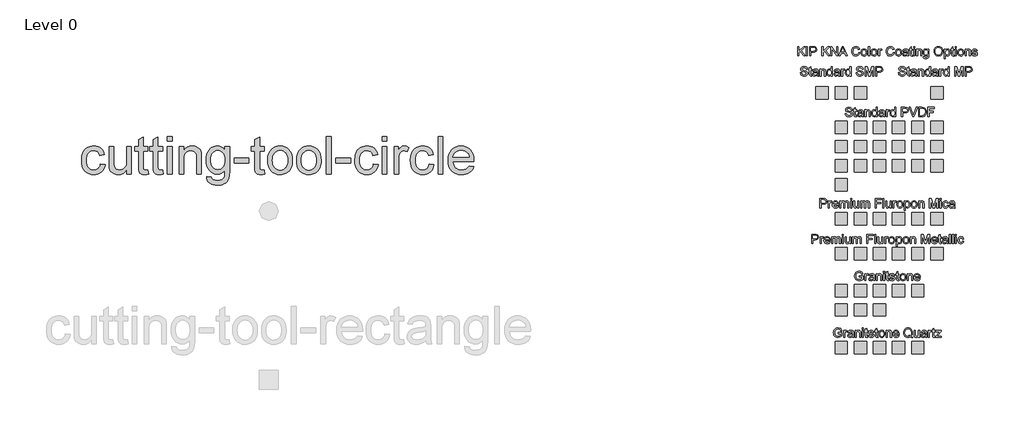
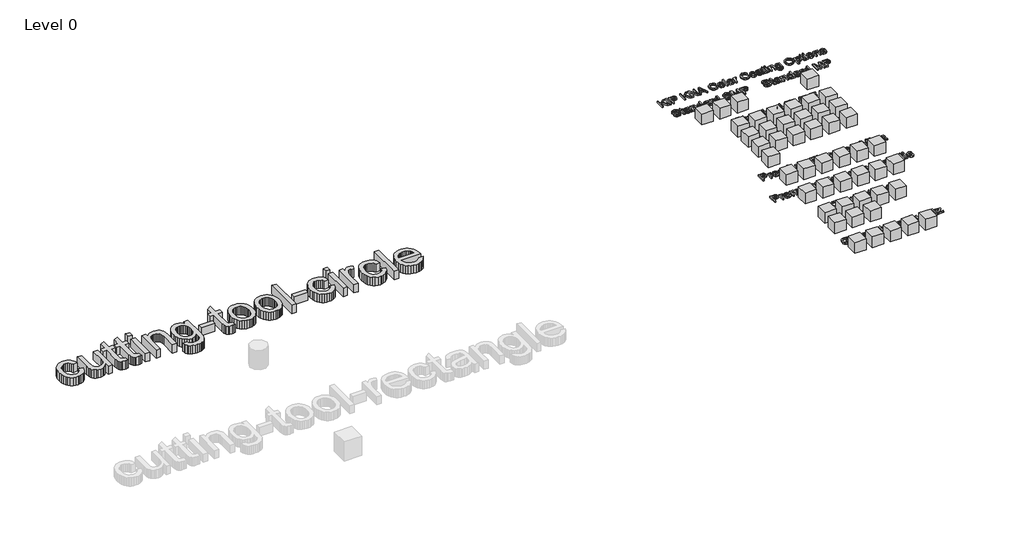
# One storey, part 3 of 3: 50 proxies.
"""IFC4 building model written with IfcOpenShell, lengths in millimetres."""

from ifc_helpers import new_model, si_unit, origin, origin_with_axes, place, context, project, spatial, polyline, outline, extrude, transform, mapped, element, save
from components import ks_color_sample_ks_color_sample_0243efec, r19_kna_color_range_kingspan_quadcore_4278cd54, r19_kna_color_range_kingspan_quadcore_c5814d20, r19_kna_color_range_kingspan_quadcore_91b79b7c

model = new_model("IFC4")

# Units and contexts
model_context = context("Model", 3, world=origin())
ifc_project = project(units=[si_unit("LENGTHUNIT", "METRE", prefix="MILLI")], contexts=[model_context])

# Site, building, storey
site = spatial("IfcSite", under=ifc_project)
building = spatial("IfcBuilding", under=site)
storey = spatial("IfcBuildingStorey", under=building, Name="Level 0", Elevation=0.0)

# Proxies
placement = place(None, origin())
element("IfcBuildingElementProxy", 1, Name="24\" Arial", ObjectType="24\" Arial", at=placement, inside=storey, context=model_context, shape_type="SweptSolid", body=[
    extrude(outline(polyline([(470.3318986, 12483.8018374), (546.4736722, 12474.2841157), (538.1921389, 12438.3556458), (525.2446914, 12406.5632951), (507.6313294, 12378.9070638), (485.3520532, 12355.3869517), (459.3456222, 12336.6164059), (430.5507963, 12323.2088731), (398.9675753, 12315.1643535), (364.5959592, 12312.4828469), (321.8916894, 12316.2239436), (283.6023784, 12327.4472336), (249.7280261, 12346.1527169), (220.2686327, 12372.3403935), (196.4232079, 12405.517647), (179.3907616, 12445.1918609), (169.1712938, 12491.3630352), (165.7648046, 12544.0311699), (171.5832555, 12611.7891691), (178.8563192, 12642.2802687), (189.0386084, 12670.5127683), (202.1998329, 12695.9196943), (218.4097027, 12717.9340731), (237.6682176, 12736.5559045), (259.9753779, 12751.7851887), (284.3227138, 12763.6265729), (309.7017558, 12772.0847045), (336.112504, 12777.1595834), (363.5549584, 12778.8512097), (397.3363642, 12776.5275472), (427.8925263, 12769.5565596), (455.2234449, 12757.938247), (479.3291199, 12741.6726094), (499.8005867, 12721.1314327), (516.2288808, 12696.686503), (528.614002, 12668.3378202), (536.9559505, 12636.0853844), (460.8141769, 12626.5676627), (447.0023269, 12659.7867421), (425.4945066, 12683.5996356), (397.4804312, 12697.9319861), (364.149816, 12702.7094362), (338.2781575, 12700.3578897), (314.9439385, 12693.3032503), (294.1471589, 12681.545518), (275.8878188, 12665.0846927), (261.021026, 12643.5396938), (250.4018883, 12616.5294406), (244.0304056, 12584.0539332), (241.9065781, 12546.1131715), (243.9839324, 12507.6007889), (250.2159953, 12474.7488482), (260.6027667, 12447.5573493), (275.1442468, 12426.0262924), (293.0410955, 12409.6630609), (313.4939731, 12397.9750384), (336.5028793, 12390.962225), (362.0678144, 12388.6246205), (401.4957201, 12394.4616607), (418.5467557, 12401.757961), (433.8225131, 12411.9727815), (446.8954384, 12425.2176579), (457.3379778, 12441.604126), (465.1501312, 12461.1321858), (470.3318986, 12483.8018374)])), origin_with_axes(), (0.0, 0.0, 1.0), 152.4),
    extrude(outline(polyline([(898.6293747, 12322.0005686), (898.6293747, 12398.8859142), (871.0800318, 12361.0845723), (838.9948997, 12334.0836137), (802.3739784, 12317.8830386), (761.2172678, 12312.4828469), (724.1316139, 12316.2750642), (689.6112835, 12327.6517159), (660.6491538, 12344.753872), (640.2381022, 12365.7226026), (626.5006094, 12391.1899439), (617.559156, 12421.787932), (613.097724, 12492.575987), (613.097724, 12769.333488), (689.2394975, 12769.333488), (689.2394975, 12528.4161578), (690.3920341, 12480.2326917), (693.8496439, 12450.7872402), (704.9474561, 12424.8923451), (723.9643102, 12405.2062762), (749.6361338, 12392.7700344), (780.6988544, 12388.6246205), (813.5461478, 12392.8629809), (844.274261, 12405.5780622), (869.6114771, 12425.5987385), (886.2860794, 12451.7538839), (895.5435508, 12487.5754653), (898.6293747, 12536.5954499), (898.6293747, 12769.333488), (974.7711482, 12769.333488), (974.7711482, 12322.0005686), (898.6293747, 12322.0005686)])), origin_with_axes(), (0.0, 0.0, 1.0), 152.4),
    extrude(outline(polyline([(1241.2673555, 12385.501618), (1250.7850772, 12319.7698526), (1220.6332323, 12314.3045984), (1193.8274614, 12312.4828469), (1157.2808973, 12315.643028), (1130.0289832, 12325.1235711), (1110.7704683, 12339.734761), (1098.2041013, 12358.2868826), (1091.2888817, 12390.1489431), (1088.9838085, 12444.6899498), (1088.9838085, 12693.1917145), (1031.8774783, 12693.1917145), (1031.8774783, 12769.333488), (1088.9838085, 12769.333488), (1088.9838085, 12878.0437155), (1165.125582, 12922.8067503), (1165.125582, 12769.333488), (1241.2673555, 12769.333488), (1241.2673555, 12693.1917145), (1165.125582, 12693.1917145), (1165.125582, 12446.9206658), (1169.1408708, 12407.6600638), (1182.1533809, 12393.7552673), (1193.1396573, 12389.9072822), (1208.104044, 12388.6246205), (1241.2673555, 12385.501618)])), origin_with_axes(), (0.0, 0.0, 1.0), 152.4),
    extrude(outline(polyline([(1479.2103977, 12385.501618), (1488.7281194, 12319.7698526), (1458.5762745, 12314.3045984), (1431.7705037, 12312.4828469), (1395.2239395, 12315.643028), (1367.9720255, 12325.1235711), (1348.7135105, 12339.734761), (1336.1471436, 12358.2868826), (1329.2319239, 12390.1489431), (1326.9268507, 12444.6899498), (1326.9268507, 12693.1917145), (1269.8205206, 12693.1917145), (1269.8205206, 12769.333488), (1326.9268507, 12769.333488), (1326.9268507, 12878.0437155), (1403.0686242, 12922.8067503), (1403.0686242, 12769.333488), (1479.2103977, 12769.333488), (1479.2103977, 12693.1917145), (1403.0686242, 12693.1917145), (1403.0686242, 12446.9206658), (1407.0839131, 12407.6600638), (1420.0964232, 12393.7552673), (1431.0826996, 12389.9072822), (1446.0470862, 12388.6246205), (1479.2103977, 12385.501618)])), origin_with_axes(), (0.0, 0.0, 1.0), 152.4),
    extrude(outline(polyline([(1555.3521713, 12854.9929833), (1555.3521713, 12931.1347568), (1631.4939448, 12931.1347568), (1631.4939448, 12854.9929833), (1555.3521713, 12854.9929833)])), origin_with_axes(), (0.0, 0.0, 1.0), 152.4),
    extrude(outline(polyline([(1555.3521713, 12322.0005686), (1555.3521713, 12769.333488), (1631.4939448, 12769.333488), (1631.4939448, 12322.0005686), (1555.3521713, 12322.0005686)])), origin_with_axes(), (0.0, 0.0, 1.0), 152.4),
    extrude(outline(polyline([(1745.706605, 12322.0005686), (1745.706605, 12769.333488), (1821.8483786, 12769.333488), (1821.8483786, 12706.8734395), (1848.3009527, 12738.363714), (1880.0700667, 12760.8567672), (1917.1557206, 12774.3525991), (1959.5579143, 12778.8512097), (1997.0897113, 12775.2262962), (2031.4613273, 12764.3515556), (2060.1260282, 12747.5840068), (2080.5370798, 12726.2806688), (2094.3861084, 12700.4973095), (2103.3647404, 12670.2896967), (2107.3800293, 12596.676068), (2107.3800293, 12322.0005686), (2031.2382557, 12322.0005686), (2031.2382557, 12586.4147743), (2029.0447183, 12625.7869121), (2022.4641061, 12653.7823982), (2010.325293, 12673.840253), (1991.4571534, 12689.3994973), (1967.2724738, 12699.3819515), (1939.1840413, 12702.7094362), (1916.0635992, 12700.8412116), (1894.5883101, 12695.2365375), (1874.7581742, 12685.8954142), (1856.5731913, 12672.8178415), (1841.3810857, 12654.5166755), (1830.5295817, 12629.5047721), (1824.0186794, 12597.7821314), (1821.8483786, 12559.3487533), (1821.8483786, 12322.0005686), (1745.706605, 12322.0005686)])), origin_with_axes(), (0.0, 0.0, 1.0), 152.4),
    extrude(outline(polyline([(2193.0395245, 12283.9296819), (2269.181298, 12274.4119602), (2277.5836617, 12250.617656), (2293.8678886, 12234.2590718), (2325.8786635, 12221.5439905), (2367.7789461, 12217.30563), (2412.4676237, 12222.1016695), (2430.5178342, 12228.0967188), (2445.7052924, 12236.4897878), (2468.7560247, 12259.54052), (2482.8838928, 12290.3244011), (2487.0107174, 12323.078748), (2488.0888968, 12379.1068988), (2462.7516807, 12354.1228793), (2434.4773551, 12336.2771512), (2403.2659201, 12325.5697143), (2369.1173757, 12322.0005686), (2327.3704548, 12326.1552772), (2290.6147611, 12338.619403), (2258.8502944, 12359.3929459), (2232.0770548, 12388.4759061), (2210.8341321, 12423.3680225), (2195.6606158, 12461.5690343), (2186.556506, 12503.0789416), (2183.5218028, 12547.8977444), (2188.9684677, 12609.37256), (2205.3084626, 12665.9026219), (2217.4193916, 12691.3931997), (2231.965519, 12713.8072484), (2248.9468447, 12733.1447679), (2268.3633688, 12749.4057583), (2289.9037203, 12762.2881433), (2313.2565287, 12771.4898469), (2338.4217938, 12777.010869), (2365.3995157, 12778.8512097), (2401.0073202, 12774.6872065), (2433.3248185, 12762.1951968), (2462.3520107, 12741.3751806), (2488.0888968, 12712.2271579), (2488.0888968, 12769.333488), (2564.2306704, 12769.333488), (2564.2306704, 12383.1221876), (2559.0256663, 12293.9493147), (2552.5194112, 12260.7813558), (2543.4106542, 12235.2257154), (2531.4809708, 12214.6148288), (2516.5119368, 12196.2811316), (2498.5035523, 12180.2246235), (2477.4558171, 12166.4453048), (2453.5825084, 12155.3846712), (2427.097403, 12147.4842186), (2398.0005009, 12142.743947), (2366.2918021, 12141.1638565), (2328.987724, 12143.3899252), (2295.4479791, 12150.0681313), (2265.6725676, 12161.1984748), (2239.6614893, 12176.7809557), (2218.6509328, 12196.8341632), (2203.8770865, 12221.3766868), (2195.3399504, 12250.4085263), (2193.0395245, 12283.9296819)]), holes=[polyline([(2259.6635763, 12553.1027484), (2261.6944573, 12515.4547682), (2267.7871005, 12483.2627477), (2277.9415057, 12456.5266867), (2292.157673, 12435.2465853), (2309.4410748, 12419.0134789), (2328.7971836, 12407.4184029), (2350.2259994, 12400.4613573), (2373.7275222, 12398.1423422), (2396.9966787, 12400.4474154), (2418.3232533, 12407.362635), (2437.707246, 12418.8880011), (2455.1486569, 12435.0235137), (2469.5600119, 12456.0944854), (2479.8538369, 12482.4262291), (2486.0301318, 12514.0187448), (2488.0888968, 12550.8720324), (2485.9697166, 12586.1870554), (2479.612176, 12616.8826373), (2469.0162749, 12642.9587781), (2454.1820133, 12664.4154779), (2436.3641691, 12681.1690846), (2416.81752, 12693.1359466), (2395.5420659, 12700.3160638), (2372.5378069, 12702.7094362), (2349.919276, 12700.3532424), (2329.0574338, 12693.284661), (2309.9522806, 12681.503692), (2292.6038162, 12665.0103355), (2278.1924612, 12643.8789485), (2267.8986363, 12618.1838883), (2261.7223413, 12587.925155), (2259.6635763, 12553.1027484)])]), origin_with_axes(), (0.0, 0.0, 1.0), 152.4),
    extrude(outline(polyline([(2640.3724439, 12502.8372807), (2640.3724439, 12578.9790543), (2878.3154861, 12578.9790543), (2878.3154861, 12502.8372807), (2640.3724439, 12502.8372807)])), origin_with_axes(), (0.0, 0.0, 1.0), 152.4),
    extrude(outline(polyline([(3125.77625, 12385.501618), (3135.2939717, 12319.7698526), (3105.1421268, 12314.3045984), (3078.336356, 12312.4828469), (3041.7897919, 12315.643028), (3014.5378778, 12325.1235711), (2995.2793628, 12339.734761), (2982.7129959, 12358.2868826), (2975.7977762, 12390.1489431), (2973.492703, 12444.6899498), (2973.492703, 12693.1917145), (2916.3863729, 12693.1917145), (2916.3863729, 12769.333488), (2973.492703, 12769.333488), (2973.492703, 12878.0437155), (3049.6344765, 12922.8067503), (3049.6344765, 12769.333488), (3125.77625, 12769.333488), (3125.77625, 12693.1917145), (3049.6344765, 12693.1917145), (3049.6344765, 12446.9206658), (3053.6497654, 12407.6600638), (3066.6622755, 12393.7552673), (3077.6485519, 12389.9072822), (3092.6129385, 12388.6246205), (3125.77625, 12385.501618)])), origin_with_axes(), (0.0, 0.0, 1.0), 152.4),
    extrude(outline(polyline([(3182.8825802, 12545.6670283), (3187.0001102, 12603.6005823), (3199.3527001, 12653.522148), (3219.9403501, 12695.4317252), (3248.76306, 12729.3293141), (3277.7809576, 12750.9951434), (3309.8103218, 12766.4707358), (3344.8511526, 12775.7560913), (3382.9034501, 12778.8512097), (3424.9106211, 12775.0822291), (3462.8932087, 12763.7752873), (3496.8512128, 12744.9303842), (3526.7846334, 12718.54752), (3551.2156212, 12685.5189809), (3568.6663267, 12646.7370534), (3579.13675, 12602.2017375), (3582.6268911, 12551.9130332), (3581.0839792, 12511.1559926), (3576.4552435, 12474.9905091), (3568.7406839, 12443.4165827), (3557.9403005, 12416.4342135), (3544.1888657, 12393.1278784), (3527.6211519, 12372.5820544), (3508.2371592, 12354.7967415), (3486.0368874, 12339.7719396), (3461.8847392, 12327.8329616), (3436.6451169, 12319.3051201), (3410.3180205, 12314.1884152), (3382.9034501, 12312.4828469), (3340.2828321, 12316.2378856), (3301.9470478, 12327.5030015), (3267.8960972, 12346.2781947), (3238.1299803, 12372.5634651), (3213.9592427, 12405.9126696), (3196.6944302, 12445.879665), (3186.3355427, 12492.4644512), (3182.8825802, 12545.6670283)]), holes=[polyline([(3259.0243537, 12545.8157427), (3261.2271858, 12508.8834506), (3267.835682, 12476.905207), (3278.8498423, 12449.8810119), (3294.2696668, 12427.8108652), (3313.0262707, 12410.6668831), (3334.0507692, 12398.4211817), (3357.3431623, 12391.0737608), (3382.9034501, 12388.6246205), (3408.3336127, 12391.0877027), (3431.5330593, 12398.4769496), (3452.5017899, 12410.7923609), (3471.2398045, 12428.0339368), (3486.659629, 12450.3225077), (3497.6737893, 12477.7789041), (3504.2822856, 12510.4031259), (3506.4851176, 12548.1951732), (3504.2683436, 12583.9563394), (3497.6180214, 12615.0980645), (3486.5341512, 12641.6203485), (3471.0167329, 12663.5231915), (3452.2090084, 12680.6671735), (3431.2542198, 12692.912875), (3408.152367, 12700.2602959), (3382.9034501, 12702.7094362), (3357.3431623, 12700.2695906), (3334.0507692, 12692.9500536), (3313.0262707, 12680.7508254), (3294.2696668, 12663.6719059), (3278.8498423, 12641.6668218), (3267.835682, 12614.6890999), (3261.2271858, 12582.7387402), (3259.0243537, 12545.8157427)])]), origin_with_axes(), (0.0, 0.0, 1.0), 152.4),
    extrude(outline(polyline([(3649.250943, 12545.6670283), (3653.368473, 12603.6005823), (3665.7210629, 12653.522148), (3686.3087129, 12695.4317252), (3715.1314228, 12729.3293141), (3744.1493204, 12750.9951434), (3776.1786846, 12766.4707358), (3811.2195154, 12775.7560913), (3849.2718129, 12778.8512097), (3891.2789839, 12775.0822291), (3929.2615715, 12763.7752873), (3963.2195756, 12744.9303842), (3993.1529962, 12718.54752), (4017.583984, 12685.5189809), (4035.0346895, 12646.7370534), (4045.5051128, 12602.2017375), (4048.9952539, 12551.9130332), (4047.452342, 12511.1559926), (4042.8236063, 12474.9905091), (4035.1090467, 12443.4165827), (4024.3086633, 12416.4342135), (4010.5572285, 12393.1278784), (3993.9895147, 12372.5820544), (3974.605522, 12354.7967415), (3952.4052502, 12339.7719396), (3928.253102, 12327.8329616), (3903.0134797, 12319.3051201), (3876.6863833, 12314.1884152), (3849.2718129, 12312.4828469), (3806.6511949, 12316.2378856), (3768.3154106, 12327.5030015), (3734.26446, 12346.2781947), (3704.4983431, 12372.5634651), (3680.3276055, 12405.9126696), (3663.062793, 12445.879665), (3652.7039055, 12492.4644512), (3649.250943, 12545.6670283)]), holes=[polyline([(3725.3927165, 12545.8157427), (3727.5955486, 12508.8834506), (3734.2040448, 12476.905207), (3745.2182051, 12449.8810119), (3760.6380296, 12427.8108652), (3779.3946335, 12410.6668831), (3800.419132, 12398.4211817), (3823.7115251, 12391.0737608), (3849.2718129, 12388.6246205), (3874.7019755, 12391.0877027), (3897.9014221, 12398.4769496), (3918.8701527, 12410.7923609), (3937.6081673, 12428.0339368), (3953.0279918, 12450.3225077), (3964.0421521, 12477.7789041), (3970.6506483, 12510.4031259), (3972.8534804, 12548.1951732), (3970.6367064, 12583.9563394), (3963.9863842, 12615.0980645), (3952.902514, 12641.6203485), (3937.3850957, 12663.5231915), (3918.5773712, 12680.6671735), (3897.6225826, 12692.912875), (3874.5207298, 12700.2602959), (3849.2718129, 12702.7094362), (3823.7115251, 12700.2695906), (3800.419132, 12692.9500536), (3779.3946335, 12680.7508254), (3760.6380296, 12663.6719059), (3745.2182051, 12641.6668218), (3734.2040448, 12614.6890999), (3727.5955486, 12582.7387402), (3725.3927165, 12545.8157427)])]), origin_with_axes(), (0.0, 0.0, 1.0), 152.4),
    extrude(outline(polyline([(4134.6547491, 12322.0005686), (4134.6547491, 12931.1347568), (4210.7965227, 12931.1347568), (4210.7965227, 12322.0005686), (4134.6547491, 12322.0005686)])), origin_with_axes(), (0.0, 0.0, 1.0), 152.4),
    extrude(outline(polyline([(4286.9382962, 12502.8372807), (4286.9382962, 12578.9790543), (4524.8813384, 12578.9790543), (4524.8813384, 12502.8372807), (4286.9382962, 12502.8372807)])), origin_with_axes(), (0.0, 0.0, 1.0), 152.4),
    extrude(outline(polyline([(4896.0724843, 12483.8018374), (4972.2142578, 12474.2841157), (4963.9327246, 12438.3556458), (4950.985277, 12406.5632951), (4933.3719151, 12378.9070638), (4911.0926389, 12355.3869517), (4885.0862079, 12336.6164059), (4856.2913819, 12323.2088731), (4824.7081609, 12315.1643535), (4790.3365449, 12312.4828469), (4747.6322751, 12316.2239436), (4709.3429641, 12327.4472336), (4675.4686118, 12346.1527169), (4646.0092184, 12372.3403935), (4622.1637936, 12405.517647), (4605.1313473, 12445.1918609), (4594.9118795, 12491.3630352), (4591.5053902, 12544.0311699), (4597.3238412, 12611.7891691), (4604.5969049, 12642.2802687), (4614.7791941, 12670.5127683), (4627.9404186, 12695.9196943), (4644.1502883, 12717.9340731), (4663.4088033, 12736.5559045), (4685.7159635, 12751.7851887), (4710.0632994, 12763.6265729), (4735.4423415, 12772.0847045), (4761.8530897, 12777.1595834), (4789.2955441, 12778.8512097), (4823.0769499, 12776.5275472), (4853.633112, 12769.5565596), (4880.9640306, 12757.938247), (4905.0697056, 12741.6726094), (4925.5411724, 12721.1314327), (4941.9694664, 12696.686503), (4954.3545877, 12668.3378202), (4962.6965361, 12636.0853844), (4886.5547626, 12626.5676627), (4872.7429126, 12659.7867421), (4851.2350923, 12683.5996356), (4823.2210169, 12697.9319861), (4789.8904017, 12702.7094362), (4764.0187432, 12700.3578897), (4740.6845242, 12693.3032503), (4719.8877446, 12681.545518), (4701.6284045, 12665.0846927), (4686.7616117, 12643.5396938), (4676.1424739, 12616.5294406), (4669.7709913, 12584.0539332), (4667.6471638, 12546.1131715), (4669.7245181, 12507.6007889), (4675.9565809, 12474.7488482), (4686.3433524, 12447.5573493), (4700.8848325, 12426.0262924), (4718.7816812, 12409.6630609), (4739.2345587, 12397.9750384), (4762.243465, 12390.962225), (4787.8084001, 12388.6246205), (4827.2363058, 12394.4616607), (4844.2873414, 12401.757961), (4859.5630988, 12411.9727815), (4872.6360241, 12425.2176579), (4883.0785635, 12441.604126), (4890.8907169, 12461.1321858), (4896.0724843, 12483.8018374)])), origin_with_axes(), (0.0, 0.0, 1.0), 152.4),
    extrude(outline(polyline([(5038.8383097, 12854.9929833), (5038.8383097, 12931.1347568), (5114.9800832, 12931.1347568), (5114.9800832, 12854.9929833), (5038.8383097, 12854.9929833)])), origin_with_axes(), (0.0, 0.0, 1.0), 152.4),
    extrude(outline(polyline([(5038.8383097, 12322.0005686), (5038.8383097, 12769.333488), (5114.9800832, 12769.333488), (5114.9800832, 12322.0005686), (5038.8383097, 12322.0005686)])), origin_with_axes(), (0.0, 0.0, 1.0), 152.4),
    extrude(outline(polyline([(5229.1927435, 12322.0005686), (5229.1927435, 12769.333488), (5295.8167953, 12769.333488), (5295.8167953, 12703.1555794), (5320.4290287, 12741.523895), (5343.1079749, 12764.128484), (5365.8612783, 12775.1705283), (5390.6965834, 12778.8512097), (5428.6187557, 12772.9769909), (5467.1357857, 12755.3543343), (5441.7056231, 12687.0944241), (5414.9370308, 12698.8056832), (5388.1684385, 12702.7094362), (5365.4337244, 12698.9543976), (5345.1156193, 12687.6892817), (5328.7012673, 12669.7691963), (5317.6778123, 12646.0492493), (5308.4203408, 12603.5169305), (5305.334517, 12557.1180372), (5305.334517, 12322.0005686), (5229.1927435, 12322.0005686)])), origin_with_axes(), (0.0, 0.0, 1.0), 152.4),
    extrude(outline(polyline([(5800.2560448, 12483.8018374), (5876.3978183, 12474.2841157), (5868.1162851, 12438.3556458), (5855.1688375, 12406.5632951), (5837.5554756, 12378.9070638), (5815.2761994, 12355.3869517), (5789.2697684, 12336.6164059), (5760.4749425, 12323.2088731), (5728.8917215, 12315.1643535), (5694.5201054, 12312.4828469), (5651.8158356, 12316.2239436), (5613.5265246, 12327.4472336), (5579.6521723, 12346.1527169), (5550.1927789, 12372.3403935), (5526.3473541, 12405.517647), (5509.3149078, 12445.1918609), (5499.09544, 12491.3630352), (5495.6889508, 12544.0311699), (5501.5074017, 12611.7891691), (5508.7804654, 12642.2802687), (5518.9627546, 12670.5127683), (5532.1239791, 12695.9196943), (5548.3338489, 12717.9340731), (5567.5923638, 12736.5559045), (5589.899524, 12751.7851887), (5614.24686, 12763.6265729), (5639.625902, 12772.0847045), (5666.0366502, 12777.1595834), (5693.4791046, 12778.8512097), (5727.2605104, 12776.5275472), (5757.8166725, 12769.5565596), (5785.1475911, 12757.938247), (5809.2532661, 12741.6726094), (5829.7247329, 12721.1314327), (5846.153027, 12696.686503), (5858.5381482, 12668.3378202), (5866.8800967, 12636.0853844), (5790.7383231, 12626.5676627), (5776.9264731, 12659.7867421), (5755.4186528, 12683.5996356), (5727.4045774, 12697.9319861), (5694.0739622, 12702.7094362), (5668.2023037, 12700.3578897), (5644.8680847, 12693.3032503), (5624.0713051, 12681.545518), (5605.811965, 12665.0846927), (5590.9451722, 12643.5396938), (5580.3260345, 12616.5294406), (5573.9545518, 12584.0539332), (5571.8307243, 12546.1131715), (5573.9080786, 12507.6007889), (5580.1401415, 12474.7488482), (5590.5269129, 12447.5573493), (5605.068393, 12426.0262924), (5622.9652417, 12409.6630609), (5643.4181193, 12397.9750384), (5666.4270255, 12390.962225), (5691.9919606, 12388.6246205), (5731.4198663, 12394.4616607), (5748.4709019, 12401.757961), (5763.7466593, 12411.9727815), (5776.8195846, 12425.2176579), (5787.262124, 12441.604126), (5795.0742774, 12461.1321858), (5800.2560448, 12483.8018374)])), origin_with_axes(), (0.0, 0.0, 1.0), 152.4),
    extrude(outline(polyline([(5943.0218702, 12322.0005686), (5943.0218702, 12931.1347568), (6019.1636437, 12931.1347568), (6019.1636437, 12322.0005686), (5943.0218702, 12322.0005686)])), origin_with_axes(), (0.0, 0.0, 1.0), 152.4),
    extrude(outline(polyline([(6446.5688333, 12455.2486723), (6521.2234628, 12445.7309506), (6509.7771012, 12415.8300613), (6494.3247455, 12389.4797283), (6474.8663955, 12366.6799516), (6451.4020514, 12347.4307313), (6424.1733739, 12332.1410319), (6393.4220241, 12321.219818), (6359.1480019, 12314.6670897), (6321.3513073, 12312.4828469), (6274.1066009, 12316.2518276), (6232.0111307, 12327.5587694), (6195.0648966, 12346.4036724), (6163.2678986, 12372.7865367), (6137.6983163, 12405.9730848), (6119.4343288, 12445.2290395), (6108.4759364, 12490.5544006), (6104.8231389, 12541.9491683), (6108.513115, 12595.0866829), (6119.5830432, 12641.9224246), (6138.0329237, 12682.4563937), (6163.8627563, 12716.68859), (6195.5761024, 12743.8847361), (6231.6765233, 12763.3105548), (6272.1640191, 12774.966046), (6317.0385897, 12778.8512097), (6360.4678422, 12774.9753406), (6399.7423862, 12763.3477334), (6434.8622215, 12743.968388), (6465.8273483, 12716.8373044), (6491.1041492, 12682.6794653), (6509.159007, 12642.2198534), (6519.9919217, 12595.4584689), (6523.6028932, 12542.3953115), (6523.15675, 12521.8727241), (6180.9649124, 12521.8727241), (6185.3752239, 12491.488513), (6194.1447262, 12464.8779298), (6207.2734195, 12442.0409745), (6224.7613036, 12422.9776472), (6245.641735, 12407.948198), (6268.9480701, 12397.2128771), (6294.6803089, 12390.7716846), (6322.8384514, 12388.6246205), (6363.3631257, 12392.6027307), (6397.4930809, 12404.5370614), (6425.2283167, 12425.1711846), (6446.5688333, 12455.2486723)]), holes=[polyline([(6180.9649124, 12598.0144976), (6447.4611197, 12598.0144976), (6437.1626474, 12638.2417432), (6428.3048459, 12654.0612377), (6416.9746674, 12667.0179799), (6396.2104191, 12682.632992), (6372.5834186, 12693.7865721), (6346.0936659, 12700.4787202), (6316.7411609, 12702.7094362), (6289.9679213, 12700.9295107), (6265.4161031, 12695.5897343), (6243.0857063, 12686.6901068), (6222.9767308, 12674.2306284), (6206.1022936, 12658.7875672), (6193.4755114, 12640.9371917), (6185.0963844, 12620.6795019), (6180.9649124, 12598.0144976)])]), origin_with_axes(), (0.0, 0.0, 1.0), 152.4),
])
ks_color_sample_ks_color_sample_shape = ks_color_sample_ks_color_sample_0243efec(model_context)
element("IfcBuildingElementProxy", 2, Name="KS_Color Sample : KS_Color Sample", ObjectType="KS_Color Sample : KS_Color Sample", at=placement, inside=storey, context=model_context, shape_type="MappedRepresentation", body=[
    mapped(ks_color_sample_ks_color_sample_shape, transform((12786.5853815, 12769.2290821, 0.0), x_axis=(1.0, 0.0, 0.0), y_axis=(0.0, 1.0, 0.0), z_axis=(0.0, 0.0, 1.0))),
])
element("IfcBuildingElementProxy", 3, Name="KS_Color Sample : KS_Color Sample", ObjectType="KS_Color Sample : KS_Color Sample", at=placement, inside=storey, context=model_context, shape_type="MappedRepresentation", body=[
    mapped(ks_color_sample_ks_color_sample_shape, transform((12166.5853815, 13639.2290821, 0.0), x_axis=(1.0, 0.0, 0.0), y_axis=(0.0, 1.0, 0.0), z_axis=(0.0, 0.0, 1.0))),
])
element("IfcBuildingElementProxy", 4, Name="KS_Color Sample : KS_Color Sample", ObjectType="KS_Color Sample : KS_Color Sample", at=placement, inside=storey, context=model_context, shape_type="MappedRepresentation", body=[
    mapped(ks_color_sample_ks_color_sample_shape, transform((12476.5853815, 13639.2290821, 0.0), x_axis=(1.0, 0.0, 0.0), y_axis=(0.0, 1.0, 0.0), z_axis=(0.0, 0.0, 1.0))),
])
element("IfcBuildingElementProxy", 5, Name="KS_Color Sample : KS_Color Sample", ObjectType="KS_Color Sample : KS_Color Sample", at=placement, inside=storey, context=model_context, shape_type="MappedRepresentation", body=[
    mapped(ks_color_sample_ks_color_sample_shape, transform((12786.5853815, 13639.2290821, 0.0), x_axis=(1.0, 0.0, 0.0), y_axis=(0.0, 1.0, 0.0), z_axis=(0.0, 0.0, 1.0))),
])
element("IfcBuildingElementProxy", 6, Name="KS_Color Sample : KS_Color Sample", ObjectType="KS_Color Sample : KS_Color Sample", at=placement, inside=storey, context=model_context, shape_type="MappedRepresentation", body=[
    mapped(ks_color_sample_ks_color_sample_shape, transform((14026.5853815, 13639.2290821, 0.0), x_axis=(1.0, 0.0, 0.0), y_axis=(0.0, 1.0, 0.0), z_axis=(0.0, 0.0, 1.0))),
])
element("IfcBuildingElementProxy", 7, Name="KS_Color Sample : KS_Color Sample", ObjectType="KS_Color Sample : KS_Color Sample", at=placement, inside=storey, context=model_context, shape_type="MappedRepresentation", body=[
    mapped(ks_color_sample_ks_color_sample_shape, transform((12786.5853815, 13079.2290821, 0.0), x_axis=(1.0, 0.0, 0.0), y_axis=(0.0, 1.0, 0.0), z_axis=(0.0, 0.0, 1.0))),
])
element("IfcBuildingElementProxy", 8, Name="KS_Color Sample : KS_Color Sample", ObjectType="KS_Color Sample : KS_Color Sample", at=placement, inside=storey, context=model_context, shape_type="MappedRepresentation", body=[
    mapped(ks_color_sample_ks_color_sample_shape, transform((13096.5853815, 13079.2290821, 0.0), x_axis=(1.0, 0.0, 0.0), y_axis=(0.0, 1.0, 0.0), z_axis=(0.0, 0.0, 1.0))),
])
element("IfcBuildingElementProxy", 9, Name="KS_Color Sample : KS_Color Sample", ObjectType="KS_Color Sample : KS_Color Sample", at=placement, inside=storey, context=model_context, shape_type="MappedRepresentation", body=[
    mapped(ks_color_sample_ks_color_sample_shape, transform((13406.5853815, 13079.2290821, 0.0), x_axis=(1.0, 0.0, 0.0), y_axis=(0.0, 1.0, 0.0), z_axis=(0.0, 0.0, 1.0))),
])
element("IfcBuildingElementProxy", 10, Name="KS_Color Sample : KS_Color Sample", ObjectType="KS_Color Sample : KS_Color Sample", at=placement, inside=storey, context=model_context, shape_type="MappedRepresentation", body=[
    mapped(ks_color_sample_ks_color_sample_shape, transform((13716.5853815, 13079.2290821, 0.0), x_axis=(1.0, 0.0, 0.0), y_axis=(0.0, 1.0, 0.0), z_axis=(0.0, 0.0, 1.0))),
])
element("IfcBuildingElementProxy", 11, Name="KS_Color Sample : KS_Color Sample", ObjectType="KS_Color Sample : KS_Color Sample", at=placement, inside=storey, context=model_context, shape_type="MappedRepresentation", body=[
    mapped(ks_color_sample_ks_color_sample_shape, transform((12476.5853815, 11599.2290821, 0.0), x_axis=(1.0, 0.0, 0.0), y_axis=(0.0, 1.0, 0.0), z_axis=(0.0, 0.0, 1.0))),
])
element("IfcBuildingElementProxy", 12, Name="KS_Color Sample : KS_Color Sample", ObjectType="KS_Color Sample : KS_Color Sample", at=placement, inside=storey, context=model_context, shape_type="MappedRepresentation", body=[
    mapped(ks_color_sample_ks_color_sample_shape, transform((12786.5853815, 11599.2290821, 0.0), x_axis=(1.0, 0.0, 0.0), y_axis=(0.0, 1.0, 0.0), z_axis=(0.0, 0.0, 1.0))),
])
element("IfcBuildingElementProxy", 13, Name="KS_Color Sample : KS_Color Sample", ObjectType="KS_Color Sample : KS_Color Sample", at=placement, inside=storey, context=model_context, shape_type="MappedRepresentation", body=[
    mapped(ks_color_sample_ks_color_sample_shape, transform((13096.5853815, 11599.2290821, 0.0), x_axis=(1.0, 0.0, 0.0), y_axis=(0.0, 1.0, 0.0), z_axis=(0.0, 0.0, 1.0))),
])
element("IfcBuildingElementProxy", 14, Name="KS_Color Sample : KS_Color Sample", ObjectType="KS_Color Sample : KS_Color Sample", at=placement, inside=storey, context=model_context, shape_type="MappedRepresentation", body=[
    mapped(ks_color_sample_ks_color_sample_shape, transform((13406.5853815, 11599.2290821, 0.0), x_axis=(1.0, 0.0, 0.0), y_axis=(0.0, 1.0, 0.0), z_axis=(0.0, 0.0, 1.0))),
])
element("IfcBuildingElementProxy", 15, Name="KS_Color Sample : KS_Color Sample", ObjectType="KS_Color Sample : KS_Color Sample", at=placement, inside=storey, context=model_context, shape_type="MappedRepresentation", body=[
    mapped(ks_color_sample_ks_color_sample_shape, transform((14026.5853815, 13079.2290821, 0.0), x_axis=(1.0, 0.0, 0.0), y_axis=(0.0, 1.0, 0.0), z_axis=(0.0, 0.0, 1.0))),
])
element("IfcBuildingElementProxy", 16, Name="KS_Color Sample : KS_Color Sample", ObjectType="KS_Color Sample : KS_Color Sample", at=placement, inside=storey, context=model_context, shape_type="MappedRepresentation", body=[
    mapped(ks_color_sample_ks_color_sample_shape, transform((13716.5853815, 12769.2290821, 0.0), x_axis=(1.0, 0.0, 0.0), y_axis=(0.0, 1.0, 0.0), z_axis=(0.0, 0.0, 1.0))),
])
element("IfcBuildingElementProxy", 17, Name="KS_Color Sample : KS_Color Sample", ObjectType="KS_Color Sample : KS_Color Sample", at=placement, inside=storey, context=model_context, shape_type="MappedRepresentation", body=[
    mapped(ks_color_sample_ks_color_sample_shape, transform((14026.5853815, 12769.2290821, 0.0), x_axis=(1.0, 0.0, 0.0), y_axis=(0.0, 1.0, 0.0), z_axis=(0.0, 0.0, 1.0))),
])
element("IfcBuildingElementProxy", 18, Name="KS_Color Sample : KS_Color Sample", ObjectType="KS_Color Sample : KS_Color Sample", at=placement, inside=storey, context=model_context, shape_type="MappedRepresentation", body=[
    mapped(ks_color_sample_ks_color_sample_shape, transform((12476.5853815, 12769.2290821, 0.0), x_axis=(1.0, 0.0, 0.0), y_axis=(0.0, 1.0, 0.0), z_axis=(0.0, 0.0, 1.0))),
])
element("IfcBuildingElementProxy", 19, Name="KS_Color Sample : KS_Color Sample", ObjectType="KS_Color Sample : KS_Color Sample", at=placement, inside=storey, context=model_context, shape_type="MappedRepresentation", body=[
    mapped(ks_color_sample_ks_color_sample_shape, transform((13096.5853815, 12769.2290821, 0.0), x_axis=(1.0, 0.0, 0.0), y_axis=(0.0, 1.0, 0.0), z_axis=(0.0, 0.0, 1.0))),
])
element("IfcBuildingElementProxy", 20, Name="KS_Color Sample : KS_Color Sample", ObjectType="KS_Color Sample : KS_Color Sample", at=placement, inside=storey, context=model_context, shape_type="MappedRepresentation", body=[
    mapped(ks_color_sample_ks_color_sample_shape, transform((13406.5853815, 12769.2290821, 0.0), x_axis=(1.0, 0.0, 0.0), y_axis=(0.0, 1.0, 0.0), z_axis=(0.0, 0.0, 1.0))),
])
element("IfcBuildingElementProxy", 21, Name="KS_Color Sample : KS_Color Sample", ObjectType="KS_Color Sample : KS_Color Sample", at=placement, inside=storey, context=model_context, shape_type="MappedRepresentation", body=[
    mapped(ks_color_sample_ks_color_sample_shape, transform((12476.5853815, 12459.2290821, 0.0), x_axis=(1.0, 0.0, 0.0), y_axis=(0.0, 1.0, 0.0), z_axis=(0.0, 0.0, 1.0))),
])
element("IfcBuildingElementProxy", 22, Name="KS_Color Sample : KS_Color Sample", ObjectType="KS_Color Sample : KS_Color Sample", at=placement, inside=storey, context=model_context, shape_type="MappedRepresentation", body=[
    mapped(ks_color_sample_ks_color_sample_shape, transform((12786.5853815, 12459.2290821, 0.0), x_axis=(1.0, 0.0, 0.0), y_axis=(0.0, 1.0, 0.0), z_axis=(0.0, 0.0, 1.0))),
])
element("IfcBuildingElementProxy", 23, Name="KS_Color Sample : KS_Color Sample", ObjectType="KS_Color Sample : KS_Color Sample", at=placement, inside=storey, context=model_context, shape_type="MappedRepresentation", body=[
    mapped(ks_color_sample_ks_color_sample_shape, transform((13096.5853815, 12459.2290821, 0.0), x_axis=(1.0, 0.0, 0.0), y_axis=(0.0, 1.0, 0.0), z_axis=(0.0, 0.0, 1.0))),
])
element("IfcBuildingElementProxy", 24, Name="KS_Color Sample : KS_Color Sample", ObjectType="KS_Color Sample : KS_Color Sample", at=placement, inside=storey, context=model_context, shape_type="MappedRepresentation", body=[
    mapped(ks_color_sample_ks_color_sample_shape, transform((13406.5853815, 12459.2290821, 0.0), x_axis=(1.0, 0.0, 0.0), y_axis=(0.0, 1.0, 0.0), z_axis=(0.0, 0.0, 1.0))),
])
element("IfcBuildingElementProxy", 25, Name="KS_Color Sample : KS_Color Sample", ObjectType="KS_Color Sample : KS_Color Sample", at=placement, inside=storey, context=model_context, shape_type="MappedRepresentation", body=[
    mapped(ks_color_sample_ks_color_sample_shape, transform((13716.5853815, 12459.2290821, 0.0), x_axis=(1.0, 0.0, 0.0), y_axis=(0.0, 1.0, 0.0), z_axis=(0.0, 0.0, 1.0))),
])
element("IfcBuildingElementProxy", 26, Name="KS_Color Sample : KS_Color Sample", ObjectType="KS_Color Sample : KS_Color Sample", at=placement, inside=storey, context=model_context, shape_type="MappedRepresentation", body=[
    mapped(ks_color_sample_ks_color_sample_shape, transform((14026.5853815, 12459.2290821, 0.0), x_axis=(1.0, 0.0, 0.0), y_axis=(0.0, 1.0, 0.0), z_axis=(0.0, 0.0, 1.0))),
])
element("IfcBuildingElementProxy", 27, Name="KS_Color Sample : KS_Color Sample", ObjectType="KS_Color Sample : KS_Color Sample", at=placement, inside=storey, context=model_context, shape_type="MappedRepresentation", body=[
    mapped(ks_color_sample_ks_color_sample_shape, transform((12476.5853815, 12149.2290821, 0.0), x_axis=(1.0, 0.0, 0.0), y_axis=(0.0, 1.0, 0.0), z_axis=(0.0, 0.0, 1.0))),
])
element("IfcBuildingElementProxy", 28, Name="KS_Color Sample : KS_Color Sample", ObjectType="KS_Color Sample : KS_Color Sample", at=placement, inside=storey, context=model_context, shape_type="MappedRepresentation", body=[
    mapped(ks_color_sample_ks_color_sample_shape, transform((13716.5853815, 11599.2290821, 0.0), x_axis=(1.0, 0.0, 0.0), y_axis=(0.0, 1.0, 0.0), z_axis=(0.0, 0.0, 1.0))),
])
element("IfcBuildingElementProxy", 29, Name="KS_Color Sample : KS_Color Sample", ObjectType="KS_Color Sample : KS_Color Sample", at=placement, inside=storey, context=model_context, shape_type="MappedRepresentation", body=[
    mapped(ks_color_sample_ks_color_sample_shape, transform((14026.5853815, 11599.2290821, 0.0), x_axis=(1.0, 0.0, 0.0), y_axis=(0.0, 1.0, 0.0), z_axis=(0.0, 0.0, 1.0))),
])
element("IfcBuildingElementProxy", 30, Name="KS_Color Sample : KS_Color Sample", ObjectType="KS_Color Sample : KS_Color Sample", at=placement, inside=storey, context=model_context, shape_type="MappedRepresentation", body=[
    mapped(ks_color_sample_ks_color_sample_shape, transform((12476.5853815, 11029.2290821, 0.0), x_axis=(1.0, 0.0, 0.0), y_axis=(0.0, 1.0, 0.0), z_axis=(0.0, 0.0, 1.0))),
])
element("IfcBuildingElementProxy", 31, Name="KS_Color Sample : KS_Color Sample", ObjectType="KS_Color Sample : KS_Color Sample", at=placement, inside=storey, context=model_context, shape_type="MappedRepresentation", body=[
    mapped(ks_color_sample_ks_color_sample_shape, transform((12786.5853815, 11029.2290821, 0.0), x_axis=(1.0, 0.0, 0.0), y_axis=(0.0, 1.0, 0.0), z_axis=(0.0, 0.0, 1.0))),
])
element("IfcBuildingElementProxy", 32, Name="KS_Color Sample : KS_Color Sample", ObjectType="KS_Color Sample : KS_Color Sample", at=placement, inside=storey, context=model_context, shape_type="MappedRepresentation", body=[
    mapped(ks_color_sample_ks_color_sample_shape, transform((13096.5853815, 11029.2290821, 0.0), x_axis=(1.0, 0.0, 0.0), y_axis=(0.0, 1.0, 0.0), z_axis=(0.0, 0.0, 1.0))),
])
element("IfcBuildingElementProxy", 33, Name="KS_Color Sample : KS_Color Sample", ObjectType="KS_Color Sample : KS_Color Sample", at=placement, inside=storey, context=model_context, shape_type="MappedRepresentation", body=[
    mapped(ks_color_sample_ks_color_sample_shape, transform((13406.5853815, 11029.2290821, 0.0), x_axis=(1.0, 0.0, 0.0), y_axis=(0.0, 1.0, 0.0), z_axis=(0.0, 0.0, 1.0))),
])
element("IfcBuildingElementProxy", 34, Name="KS_Color Sample : KS_Color Sample", ObjectType="KS_Color Sample : KS_Color Sample", at=placement, inside=storey, context=model_context, shape_type="MappedRepresentation", body=[
    mapped(ks_color_sample_ks_color_sample_shape, transform((13716.5853815, 11029.2290821, 0.0), x_axis=(1.0, 0.0, 0.0), y_axis=(0.0, 1.0, 0.0), z_axis=(0.0, 0.0, 1.0))),
])
element("IfcBuildingElementProxy", 35, Name="KS_Color Sample : KS_Color Sample", ObjectType="KS_Color Sample : KS_Color Sample", at=placement, inside=storey, context=model_context, shape_type="MappedRepresentation", body=[
    mapped(ks_color_sample_ks_color_sample_shape, transform((14026.5853815, 11029.2290821, 0.0), x_axis=(1.0, 0.0, 0.0), y_axis=(0.0, 1.0, 0.0), z_axis=(0.0, 0.0, 1.0))),
])
element("IfcBuildingElementProxy", 36, Name="KS_Color Sample : KS_Color Sample", ObjectType="KS_Color Sample : KS_Color Sample", at=placement, inside=storey, context=model_context, shape_type="MappedRepresentation", body=[
    mapped(ks_color_sample_ks_color_sample_shape, transform((12476.5853815, 10429.2290821, 0.0), x_axis=(1.0, 0.0, 0.0), y_axis=(0.0, 1.0, 0.0), z_axis=(0.0, 0.0, 1.0))),
])
element("IfcBuildingElementProxy", 37, Name="KS_Color Sample : KS_Color Sample", ObjectType="KS_Color Sample : KS_Color Sample", at=placement, inside=storey, context=model_context, shape_type="MappedRepresentation", body=[
    mapped(ks_color_sample_ks_color_sample_shape, transform((12786.5853815, 10429.2290821, 0.0), x_axis=(1.0, 0.0, 0.0), y_axis=(0.0, 1.0, 0.0), z_axis=(0.0, 0.0, 1.0))),
])
element("IfcBuildingElementProxy", 38, Name="KS_Color Sample : KS_Color Sample", ObjectType="KS_Color Sample : KS_Color Sample", at=placement, inside=storey, context=model_context, shape_type="MappedRepresentation", body=[
    mapped(ks_color_sample_ks_color_sample_shape, transform((13096.5853815, 10429.2290821, 0.0), x_axis=(1.0, 0.0, 0.0), y_axis=(0.0, 1.0, 0.0), z_axis=(0.0, 0.0, 1.0))),
])
element("IfcBuildingElementProxy", 39, Name="KS_Color Sample : KS_Color Sample", ObjectType="KS_Color Sample : KS_Color Sample", at=placement, inside=storey, context=model_context, shape_type="MappedRepresentation", body=[
    mapped(ks_color_sample_ks_color_sample_shape, transform((13406.5853815, 10429.2290821, 0.0), x_axis=(1.0, 0.0, 0.0), y_axis=(0.0, 1.0, 0.0), z_axis=(0.0, 0.0, 1.0))),
])
element("IfcBuildingElementProxy", 40, Name="KS_Color Sample : KS_Color Sample", ObjectType="KS_Color Sample : KS_Color Sample", at=placement, inside=storey, context=model_context, shape_type="MappedRepresentation", body=[
    mapped(ks_color_sample_ks_color_sample_shape, transform((13716.5853815, 10429.2290821, 0.0), x_axis=(1.0, 0.0, 0.0), y_axis=(0.0, 1.0, 0.0), z_axis=(0.0, 0.0, 1.0))),
])
element("IfcBuildingElementProxy", 41, Name="KS_Color Sample : KS_Color Sample", ObjectType="KS_Color Sample : KS_Color Sample", at=placement, inside=storey, context=model_context, shape_type="MappedRepresentation", body=[
    mapped(ks_color_sample_ks_color_sample_shape, transform((12476.5853815, 10119.2290821, 0.0), x_axis=(1.0, 0.0, 0.0), y_axis=(0.0, 1.0, 0.0), z_axis=(0.0, 0.0, 1.0))),
])
element("IfcBuildingElementProxy", 42, Name="KS_Color Sample : KS_Color Sample", ObjectType="KS_Color Sample : KS_Color Sample", at=placement, inside=storey, context=model_context, shape_type="MappedRepresentation", body=[
    mapped(ks_color_sample_ks_color_sample_shape, transform((12786.5853815, 10119.2290821, 0.0), x_axis=(1.0, 0.0, 0.0), y_axis=(0.0, 1.0, 0.0), z_axis=(0.0, 0.0, 1.0))),
])
element("IfcBuildingElementProxy", 43, Name="KS_Color Sample : KS_Color Sample", ObjectType="KS_Color Sample : KS_Color Sample", at=placement, inside=storey, context=model_context, shape_type="MappedRepresentation", body=[
    mapped(ks_color_sample_ks_color_sample_shape, transform((13096.5853815, 10119.2290821, 0.0), x_axis=(1.0, 0.0, 0.0), y_axis=(0.0, 1.0, 0.0), z_axis=(0.0, 0.0, 1.0))),
])
element("IfcBuildingElementProxy", 44, Name="KS_Color Sample : KS_Color Sample", ObjectType="KS_Color Sample : KS_Color Sample", at=placement, inside=storey, context=model_context, shape_type="MappedRepresentation", body=[
    mapped(ks_color_sample_ks_color_sample_shape, transform((12476.5853815, 9509.2290821, 0.0), x_axis=(1.0, 0.0, 0.0), y_axis=(0.0, 1.0, 0.0), z_axis=(0.0, 0.0, 1.0))),
])
element("IfcBuildingElementProxy", 45, Name="KS_Color Sample : KS_Color Sample", ObjectType="KS_Color Sample : KS_Color Sample", at=placement, inside=storey, context=model_context, shape_type="MappedRepresentation", body=[
    mapped(ks_color_sample_ks_color_sample_shape, transform((12786.5853815, 9509.2290821, 0.0), x_axis=(1.0, 0.0, 0.0), y_axis=(0.0, 1.0, 0.0), z_axis=(0.0, 0.0, 1.0))),
])
element("IfcBuildingElementProxy", 46, Name="KS_Color Sample : KS_Color Sample", ObjectType="KS_Color Sample : KS_Color Sample", at=placement, inside=storey, context=model_context, shape_type="MappedRepresentation", body=[
    mapped(ks_color_sample_ks_color_sample_shape, transform((13096.5853815, 9509.2290821, 0.0), x_axis=(1.0, 0.0, 0.0), y_axis=(0.0, 1.0, 0.0), z_axis=(0.0, 0.0, 1.0))),
])
element("IfcBuildingElementProxy", 47, Name="KS_Color Sample : KS_Color Sample", ObjectType="KS_Color Sample : KS_Color Sample", at=placement, inside=storey, context=model_context, shape_type="MappedRepresentation", body=[
    mapped(ks_color_sample_ks_color_sample_shape, transform((13406.5853815, 9509.2290821, 0.0), x_axis=(1.0, 0.0, 0.0), y_axis=(0.0, 1.0, 0.0), z_axis=(0.0, 0.0, 1.0))),
])
element("IfcBuildingElementProxy", 48, Name="KS_Color Sample : KS_Color Sample", ObjectType="KS_Color Sample : KS_Color Sample", at=placement, inside=storey, context=model_context, shape_type="MappedRepresentation", body=[
    mapped(ks_color_sample_ks_color_sample_shape, transform((13716.5853815, 9509.2290821, 0.0), x_axis=(1.0, 0.0, 0.0), y_axis=(0.0, 1.0, 0.0), z_axis=(0.0, 0.0, 1.0))),
])
element("IfcBuildingElementProxy", 49, Name="KS_Color Sample : KS_Color Sample", ObjectType="KS_Color Sample : KS_Color Sample", at=placement, inside=storey, context=model_context, shape_type="MappedRepresentation", body=[
    mapped(ks_color_sample_ks_color_sample_shape, transform((12476.5853815, 13079.2290821, 0.0), x_axis=(1.0, 0.0, 0.0), y_axis=(0.0, 1.0, 0.0), z_axis=(0.0, 0.0, 1.0))),
])
r19_kna_color_range_kingspan_quadcore_shape = r19_kna_color_range_kingspan_quadcore_4278cd54(model_context)
r19_kna_color_range_kingspan_quadcore_2_shape = r19_kna_color_range_kingspan_quadcore_c5814d20(model_context)
r19_kna_color_range_kingspan_quadcore_3_shape = r19_kna_color_range_kingspan_quadcore_91b79b7c(model_context)
element("IfcBuildingElementProxy", 50, Name="R19_KNA_Color Range : Kingspan Quadcore", ObjectType="R19_KNA_Color Range : Kingspan Quadcore", at=placement, inside=storey, context=model_context, shape_type="MappedRepresentation", body=[
    mapped(r19_kna_color_range_kingspan_quadcore_shape, transform((13221.5853815, 13539.2290821, 0.0), x_axis=(1.0, 0.0, 0.0), y_axis=(0.0, 1.0, 0.0), z_axis=(0.0, 0.0, 1.0))),
    mapped(r19_kna_color_range_kingspan_quadcore_2_shape, transform((13221.5853815, 13539.2290821, 0.0), x_axis=(1.0, 0.0, 0.0), y_axis=(0.0, 1.0, 0.0), z_axis=(0.0, 0.0, 1.0))),
    mapped(r19_kna_color_range_kingspan_quadcore_3_shape, transform((13221.5853815, 13539.2290821, 0.0), x_axis=(1.0, 0.0, 0.0), y_axis=(0.0, 1.0, 0.0), z_axis=(0.0, 0.0, 1.0))),
])

save(model, "model.ifc")
